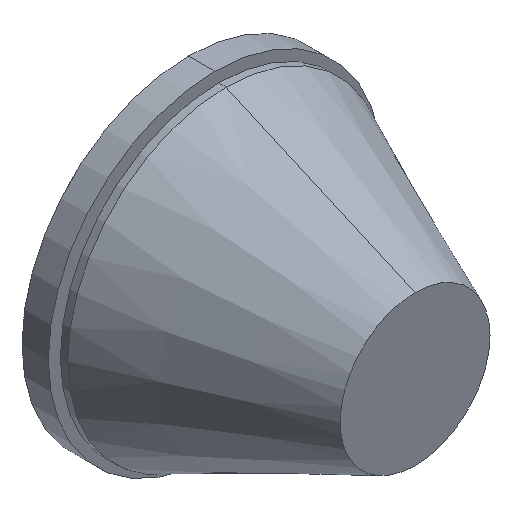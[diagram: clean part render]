
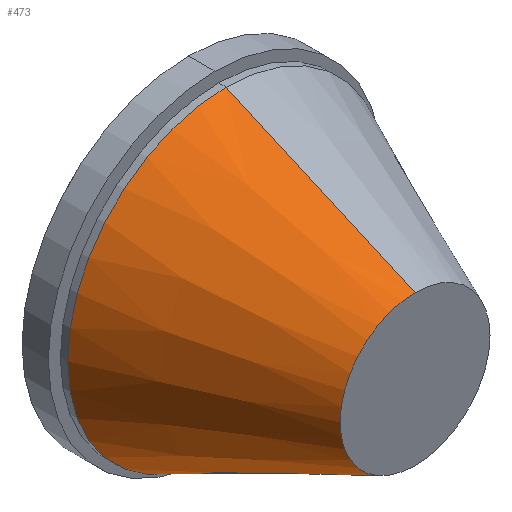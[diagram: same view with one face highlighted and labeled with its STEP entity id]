
A CAD part, isometric view. The second image highlights one B-rep face of the part: STEP entity #473.
In plain terms, the highlighted conical face has half-angle 23.827 degrees and reference radius 20.227 mm.
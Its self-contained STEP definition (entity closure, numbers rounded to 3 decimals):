
#32 = DIRECTION ( 'NONE',  ( 0., 0.915, 0.404 ) ) ;
#53 = DIRECTION ( 'NONE',  ( 0., 0., 1. ) ) ;
#57 = DIRECTION ( 'NONE',  ( 0., 1., 0. ) ) ;
#58 = CARTESIAN_POINT ( 'NONE',  ( 0., 0., 0. ) ) ;
#104 = CARTESIAN_POINT ( 'NONE',  ( 0., 0., 20.227 ) ) ;
#113 = CARTESIAN_POINT ( 'NONE',  ( 0., 51., -42.75 ) ) ;
#118 = CARTESIAN_POINT ( 'NONE',  ( 0., 0., -20.227 ) ) ;
#120 = CARTESIAN_POINT ( 'NONE',  ( 0., 51., 42.75 ) ) ;
#122 = VERTEX_POINT ( 'NONE', #104 ) ;
#123 = VERTEX_POINT ( 'NONE', #118 ) ;
#134 = VERTEX_POINT ( 'NONE', #120 ) ;
#165 = VERTEX_POINT ( 'NONE', #113 ) ;
#200 = AXIS2_PLACEMENT_3D ( 'NONE', #58, #57, #53 ) ;
#206 = AXIS2_PLACEMENT_3D ( 'NONE', #282, #281, #260 ) ;
#207 = AXIS2_PLACEMENT_3D ( 'NONE', #323, #322, #278 ) ;
#229 = EDGE_CURVE ( 'NONE', #123, #165, #372, .T. ) ;
#240 = EDGE_CURVE ( 'NONE', #123, #122, #389, .T. ) ;
#241 = EDGE_CURVE ( 'NONE', #134, #165, #388, .T. ) ;
#246 = EDGE_CURVE ( 'NONE', #122, #134, #398, .T. ) ;
#260 = DIRECTION ( 'NONE',  ( 0., 0., -1. ) ) ;
#278 = DIRECTION ( 'NONE',  ( 0., 0., 1. ) ) ;
#281 = DIRECTION ( 'NONE',  ( 0., -1., 0. ) ) ;
#282 = CARTESIAN_POINT ( 'NONE',  ( 0., 51., 0. ) ) ;
#305 = CARTESIAN_POINT ( 'NONE',  ( 0., 0., -20.227 ) ) ;
#318 = DIRECTION ( 'NONE',  ( 0., 0.915, -0.404 ) ) ;
#322 = DIRECTION ( 'NONE',  ( 0., 1., 0. ) ) ;
#323 = CARTESIAN_POINT ( 'NONE',  ( 0., 0., 0. ) ) ;
#325 = CARTESIAN_POINT ( 'NONE',  ( 0., 0., 20.227 ) ) ;
#343 = EDGE_LOOP ( 'NONE', ( #356, #357, #358, #359 ) ) ;
#356 = ORIENTED_EDGE ( 'NONE', *, *, #229, .F. ) ;
#357 = ORIENTED_EDGE ( 'NONE', *, *, #240, .T. ) ;
#358 = ORIENTED_EDGE ( 'NONE', *, *, #246, .T. ) ;
#359 = ORIENTED_EDGE ( 'NONE', *, *, #241, .T. ) ;
#372 = LINE ( 'NONE', #305, #377 ) ;
#377 = VECTOR ( 'NONE', #318, 1000. ) ;
#388 = CIRCLE ( 'NONE', #206, 42.75 ) ;
#389 = CIRCLE ( 'NONE', #207, 20.227 ) ;
#398 = LINE ( 'NONE', #325, #400 ) ;
#400 = VECTOR ( 'NONE', #32, 1000. ) ;
#410 = FACE_OUTER_BOUND ( 'NONE', #343, .T. ) ;
#417 = CONICAL_SURFACE ( 'NONE', #200, 20.227, 0.416 ) ;
#473 = ADVANCED_FACE ( 'NONE', ( #410 ), #417, .T. ) ;
